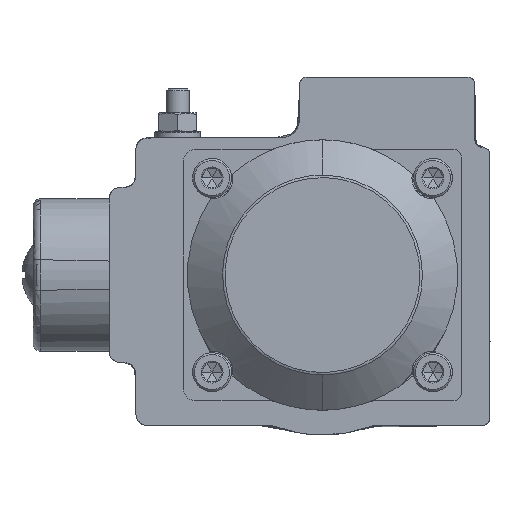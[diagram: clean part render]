
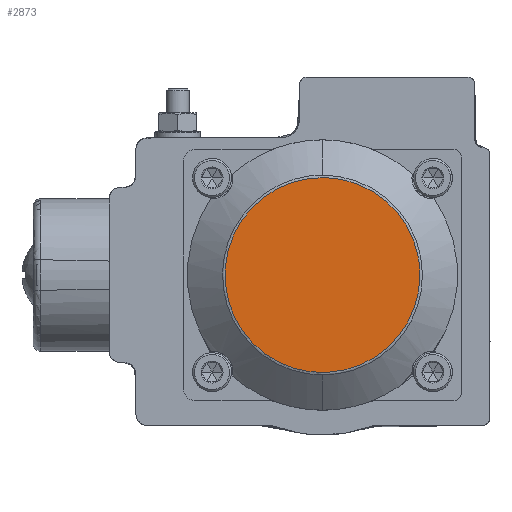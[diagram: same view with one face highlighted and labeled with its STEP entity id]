
A CAD part, left-side view. The second image highlights one B-rep face of the part: STEP entity #2873.
In plain terms, the highlighted planar face has unit normal (-1, 0, 0).
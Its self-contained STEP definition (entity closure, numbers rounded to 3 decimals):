
#2873=ADVANCED_FACE('',(#7823),#7825,.T.);
#7823=FACE_BOUND('',#7824,.T.);
#7824=EDGE_LOOP('',(#17596));
#7825=PLANE('',#7826);
#7826=AXIS2_PLACEMENT_3D('',#7827,#7828,#7829);
#7827=CARTESIAN_POINT('',(2692.443,-120.551,542.361));
#7828=DIRECTION('',(-1.,0.,0.));
#7829=DIRECTION('',(0.,0.,1.));
#17596=ORIENTED_EDGE('',*,*,#24602,.F.);
#24602=EDGE_CURVE('',#26765,#26765,#26766,.T.);
#26765=VERTEX_POINT('',#37311);
#26766=B_SPLINE_CURVE_WITH_KNOTS('',3,
(#37312,#37313,#37314,#37315,#37316,#37317,#37318,#37319,#37320,#37321,#37322,#37323,
#37324,#37325,#37326,#37327,#37328,#37329,#37330,#37331,#37332,#37333,#37334,#37335,
#37336,#37337,#37338,#37339,#37340,#37341,#37342,#37343,#37344,#37345,#37346,#37347,
#37348,#37349,#37350,#37351,#37352,#37353,#37354,#37355,#37356,#37357,#37358,#37359,
#37360,#37361,#37362,#37363,#37364,#37365,#37366,#37367,#37368,#37369,#37370,#37371,
#37372,#37373,#37374,#37375,#37376,#37377,#37378,#37379,#37380,#37381,#37382,#37383,
#37384,#37385,#37386,#37387,#37388,#37389,#37390,#37391,#37392,#37393,#37394,#37395,
#37396,#37397,#37398,#37399,#37400,#37401,#37402,#37403,#37404,#37405,#37406,#37407,
#37408,#37409,#37410,#37411,#37412,#37413,#37414),
.UNSPECIFIED.,.T.,.F.,
(4,1,1,1,1,1,1,1,1,1,1,1,1,1,1,1,1,1,1,1,1,1,1,1,1,1,1,1,1,1,1,1,1,1,1,1,1,1,1,1,
1,1,1,1,1,1,1,1,1,1,1,1,1,1,1,1,1,1,1,1,1,1,1,1,1,1,1,1,1,1,1,1,1,1,1,1,1,1,1,1,
1,1,1,1,1,1,1,1,1,1,1,1,1,1,1,1,1,1,1,1,4),
(0.,0.01,0.02,0.03,0.04,
0.05,0.06,0.07,0.08,0.09,
0.1,0.11,0.12,0.13,0.14,
0.15,0.16,0.17,0.18,0.19,
0.2,0.21,0.22,0.23,0.24,
0.25,0.26,0.27,0.28,0.29,
0.3,0.31,0.32,0.33,0.34,
0.35,0.36,0.37,0.38,0.39,
0.4,0.41,0.42,0.43,0.44,
0.45,0.46,0.47,0.48,0.49,
0.5,0.512,0.523,0.533,0.543,
0.553,0.563,0.573,0.583,0.593,
0.603,0.613,0.623,0.633,0.643,
0.653,0.663,0.673,0.683,0.693,
0.703,0.713,0.723,0.733,0.743,
0.753,0.763,0.773,0.783,0.793,
0.803,0.813,0.823,0.833,0.843,
0.853,0.863,0.873,0.883,0.893,
0.903,0.913,0.923,0.933,0.943,
0.953,0.963,0.973,0.983,0.995,
1.),
.UNSPECIFIED.);
#37311=CARTESIAN_POINT('',(2692.443,-146.153,542.523));
#37312=CARTESIAN_POINT('',(2692.443,-146.153,542.523));
#37313=CARTESIAN_POINT('',(2692.443,-146.16,541.987));
#37314=CARTESIAN_POINT('',(2692.443,-146.127,540.914));
#37315=CARTESIAN_POINT('',(2692.443,-145.988,539.311));
#37316=CARTESIAN_POINT('',(2692.443,-145.746,537.72));
#37317=CARTESIAN_POINT('',(2692.443,-145.405,536.147));
#37318=CARTESIAN_POINT('',(2692.443,-144.966,534.598));
#37319=CARTESIAN_POINT('',(2692.443,-144.43,533.08));
#37320=CARTESIAN_POINT('',(2692.443,-143.8,531.599));
#37321=CARTESIAN_POINT('',(2692.443,-143.078,530.16));
#37322=CARTESIAN_POINT('',(2692.443,-142.268,528.77));
#37323=CARTESIAN_POINT('',(2692.443,-141.371,527.433));
#37324=CARTESIAN_POINT('',(2692.443,-140.393,526.155));
#37325=CARTESIAN_POINT('',(2692.443,-139.336,524.941));
#37326=CARTESIAN_POINT('',(2692.443,-138.205,523.796));
#37327=CARTESIAN_POINT('',(2692.443,-137.004,522.724));
#37328=CARTESIAN_POINT('',(2692.443,-135.739,521.73));
#37329=CARTESIAN_POINT('',(2692.443,-134.413,520.817));
#37330=CARTESIAN_POINT('',(2692.443,-133.033,519.989));
#37331=CARTESIAN_POINT('',(2692.443,-131.604,519.249));
#37332=CARTESIAN_POINT('',(2692.443,-130.13,518.6));
#37333=CARTESIAN_POINT('',(2692.443,-128.619,518.046));
#37334=CARTESIAN_POINT('',(2692.443,-127.077,517.587));
#37335=CARTESIAN_POINT('',(2692.443,-125.508,517.226));
#37336=CARTESIAN_POINT('',(2692.443,-123.92,516.965));
#37337=CARTESIAN_POINT('',(2692.443,-122.318,516.803));
#37338=CARTESIAN_POINT('',(2692.443,-120.71,516.743));
#37339=CARTESIAN_POINT('',(2692.443,-119.101,516.783));
#37340=CARTESIAN_POINT('',(2692.443,-117.498,516.925));
#37341=CARTESIAN_POINT('',(2692.443,-115.906,517.167));
#37342=CARTESIAN_POINT('',(2692.443,-114.334,517.508));
#37343=CARTESIAN_POINT('',(2692.443,-112.785,517.948));
#37344=CARTESIAN_POINT('',(2692.443,-111.267,518.484));
#37345=CARTESIAN_POINT('',(2692.443,-109.786,519.114));
#37346=CARTESIAN_POINT('',(2692.443,-108.348,519.835));
#37347=CARTESIAN_POINT('',(2692.443,-106.957,520.646));
#37348=CARTESIAN_POINT('',(2692.443,-105.621,521.543));
#37349=CARTESIAN_POINT('',(2692.443,-104.343,522.521));
#37350=CARTESIAN_POINT('',(2692.443,-103.129,523.578));
#37351=CARTESIAN_POINT('',(2692.443,-101.984,524.709));
#37352=CARTESIAN_POINT('',(2692.443,-100.912,525.91));
#37353=CARTESIAN_POINT('',(2692.443,-99.918,527.176));
#37354=CARTESIAN_POINT('',(2692.443,-99.005,528.502));
#37355=CARTESIAN_POINT('',(2692.443,-98.177,529.882));
#37356=CARTESIAN_POINT('',(2692.443,-97.438,531.312));
#37357=CARTESIAN_POINT('',(2692.443,-96.789,532.785));
#37358=CARTESIAN_POINT('',(2692.443,-96.235,534.296));
#37359=CARTESIAN_POINT('',(2692.443,-95.777,535.839));
#37360=CARTESIAN_POINT('',(2692.443,-95.416,537.407));
#37361=CARTESIAN_POINT('',(2692.443,-95.154,538.996));
#37362=CARTESIAN_POINT('',(2692.443,-94.994,540.595));
#37363=CARTESIAN_POINT('',(2692.443,-94.928,542.284));
#37364=CARTESIAN_POINT('',(2692.443,-94.992,544.06));
#37365=CARTESIAN_POINT('',(2692.443,-95.163,545.825));
#37366=CARTESIAN_POINT('',(2692.443,-95.453,547.496));
#37367=CARTESIAN_POINT('',(2692.443,-95.823,549.06));
#37368=CARTESIAN_POINT('',(2692.443,-96.294,550.601));
#37369=CARTESIAN_POINT('',(2692.443,-96.858,552.106));
#37370=CARTESIAN_POINT('',(2692.443,-97.518,553.577));
#37371=CARTESIAN_POINT('',(2692.443,-98.266,554.999));
#37372=CARTESIAN_POINT('',(2692.443,-99.105,556.375));
#37373=CARTESIAN_POINT('',(2692.443,-100.026,557.693));
#37374=CARTESIAN_POINT('',(2692.443,-101.031,558.953));
#37375=CARTESIAN_POINT('',(2692.443,-102.11,560.144));
#37376=CARTESIAN_POINT('',(2692.443,-103.265,561.269));
#37377=CARTESIAN_POINT('',(2692.443,-104.484,562.316));
#37378=CARTESIAN_POINT('',(2692.443,-105.771,563.286));
#37379=CARTESIAN_POINT('',(2692.443,-107.112,564.172));
#37380=CARTESIAN_POINT('',(2692.443,-108.51,564.974));
#37381=CARTESIAN_POINT('',(2692.443,-109.952,565.685));
#37382=CARTESIAN_POINT('',(2692.443,-111.44,566.305));
#37383=CARTESIAN_POINT('',(2692.443,-112.959,566.829));
#37384=CARTESIAN_POINT('',(2692.443,-114.513,567.258));
#37385=CARTESIAN_POINT('',(2692.443,-116.086,567.588));
#37386=CARTESIAN_POINT('',(2692.443,-117.681,567.819));
#37387=CARTESIAN_POINT('',(2692.443,-119.283,567.949));
#37388=CARTESIAN_POINT('',(2692.443,-120.894,567.978));
#37389=CARTESIAN_POINT('',(2692.443,-122.5,567.906));
#37390=CARTESIAN_POINT('',(2692.443,-124.103,567.732));
#37391=CARTESIAN_POINT('',(2692.443,-125.687,567.46));
#37392=CARTESIAN_POINT('',(2692.443,-127.255,567.087));
#37393=CARTESIAN_POINT('',(2692.443,-128.792,566.618));
#37394=CARTESIAN_POINT('',(2692.443,-130.301,566.052));
#37395=CARTESIAN_POINT('',(2692.443,-131.768,565.394));
#37396=CARTESIAN_POINT('',(2692.443,-133.194,564.643));
#37397=CARTESIAN_POINT('',(2692.443,-134.566,563.806));
#37398=CARTESIAN_POINT('',(2692.443,-135.887,562.883));
#37399=CARTESIAN_POINT('',(2692.443,-137.144,561.881));
#37400=CARTESIAN_POINT('',(2692.443,-138.338,560.799));
#37401=CARTESIAN_POINT('',(2692.443,-139.46,559.647));
#37402=CARTESIAN_POINT('',(2692.443,-140.509,558.424));
#37403=CARTESIAN_POINT('',(2692.443,-141.477,557.141));
#37404=CARTESIAN_POINT('',(2692.443,-142.365,555.796));
#37405=CARTESIAN_POINT('',(2692.443,-143.165,554.401));
#37406=CARTESIAN_POINT('',(2692.443,-143.877,552.955));
#37407=CARTESIAN_POINT('',(2692.443,-144.495,551.472));
#37408=CARTESIAN_POINT('',(2692.443,-145.021,549.948));
#37409=CARTESIAN_POINT('',(2692.443,-145.449,548.399));
#37410=CARTESIAN_POINT('',(2692.443,-145.778,546.821));
#37411=CARTESIAN_POINT('',(2692.443,-146.023,545.147));
#37412=CARTESIAN_POINT('',(2692.443,-146.116,543.711));
#37413=CARTESIAN_POINT('',(2692.443,-146.149,542.807));
#37414=CARTESIAN_POINT('',(2692.443,-146.153,542.523));
